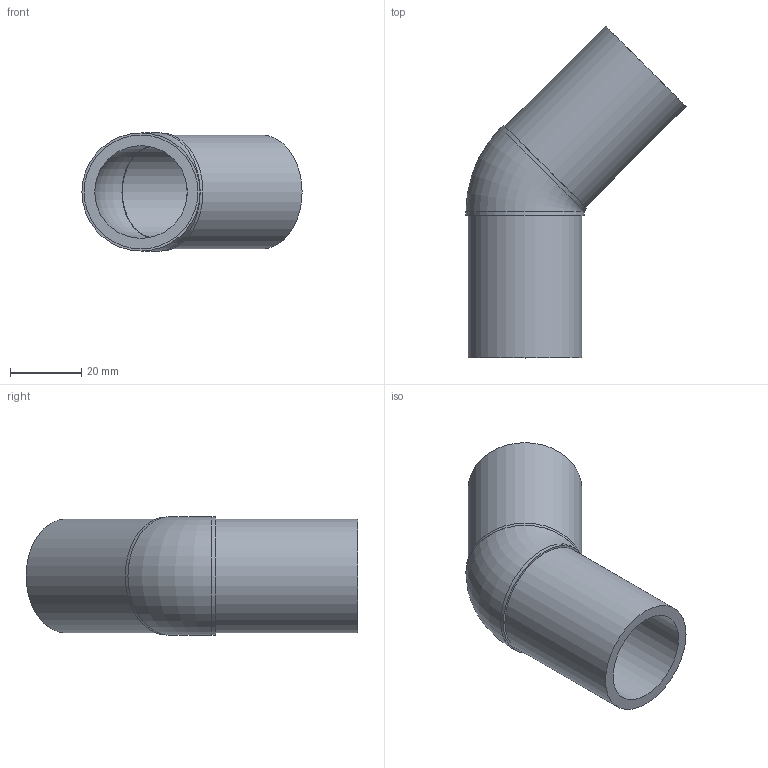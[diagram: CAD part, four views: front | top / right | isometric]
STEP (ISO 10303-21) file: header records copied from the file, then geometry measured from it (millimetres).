
FILE_DESCRIPTION(('Beschreibung'),'1');
FILE_NAME('V:/Ziel/25.15.01.103_SDR11_PE100_032.STP', '2014-09-15T06:22:22',('Author'), ('Organization'), 'KCM Version 1.1.794.0', 'Kubotek KeyCreator', 'Authorization');
FILE_SCHEMA(('CONFIG_CONTROL_DESIGN'));
Length unit declared in the file: millimetre
Bounding box: 61.85 x 93.25 x 33.2 mm (x, y, z)
Volume: 26897.5 mm3; surface area: 18119.4 mm2
Topology: 1 solids, 1 shells, 17 faces, 57 edges, 65 vertices
Faces by surface type: plane 7, cylinder 5, torus 2, cone 2, bspline 1
Full cylindrical faces by diameter (mm): 25.8 x1, 26 x2, 32 x2
Entity records: 665 total; most frequent: CARTESIAN_POINT 117, DIRECTION 107, ORIENTED_EDGE 72, AXIS2_PLACEMENT_3D 40, EDGE_CURVE 36, VECTOR 27, LINE 27, VERTEX_POINT 26
